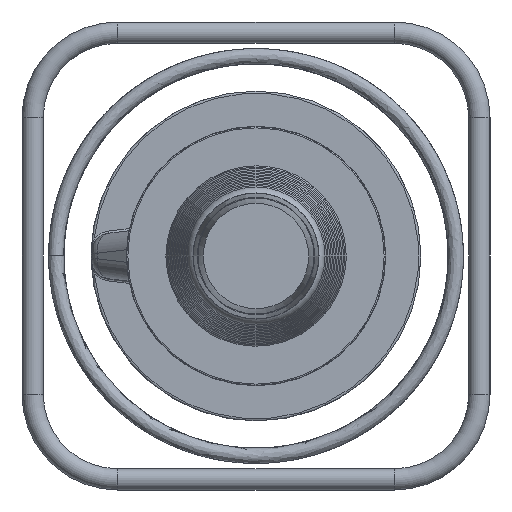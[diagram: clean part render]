
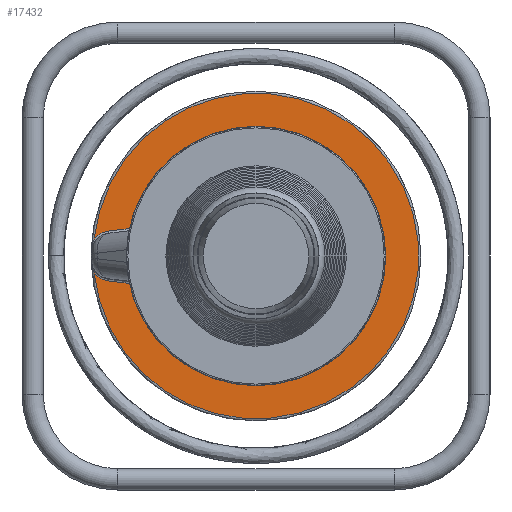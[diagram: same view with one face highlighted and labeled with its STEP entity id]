
A CAD part, left-side view. The second image highlights one B-rep face of the part: STEP entity #17432.
In plain terms, the highlighted planar face has unit normal (-1, 0, 0).
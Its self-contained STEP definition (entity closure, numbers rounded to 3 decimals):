
#1563=PLANE('',#18484);
#2570=LINE('',#39196,#3562);
#2572=LINE('',#39220,#3564);
#3562=VECTOR('',#21537,10.);
#3564=VECTOR('',#21567,10.);
#4504=FACE_OUTER_BOUND('',#5551,.T.);
#5551=EDGE_LOOP('',(#14968,#14969,#14970,#14971,#14972,#14973,#14974,#14975));
#6076=CIRCLE('',#18427,21.);
#6080=CIRCLE('',#18433,8.);
#6083=CIRCLE('',#18437,99.305);
#6086=CIRCLE('',#18441,8.);
#6090=CIRCLE('',#18447,21.);
#6099=CIRCLE('',#18464,153.);
#7895=VERTEX_POINT('',#39167);
#7898=VERTEX_POINT('',#39188);
#7900=VERTEX_POINT('',#39194);
#7902=VERTEX_POINT('',#39200);
#7904=VERTEX_POINT('',#39206);
#7906=VERTEX_POINT('',#39212);
#7908=VERTEX_POINT('',#39218);
#7910=VERTEX_POINT('',#39224);
#10268=EDGE_CURVE('',#7898,#7895,#6076,.T.);
#10271=EDGE_CURVE('',#7900,#7898,#2570,.T.);
#10274=EDGE_CURVE('',#7902,#7900,#6080,.T.);
#10277=EDGE_CURVE('',#7904,#7902,#6083,.T.);
#10280=EDGE_CURVE('',#7906,#7904,#6086,.T.);
#10283=EDGE_CURVE('',#7908,#7906,#2572,.T.);
#10286=EDGE_CURVE('',#7910,#7908,#6090,.T.);
#10311=EDGE_CURVE('',#7895,#7910,#6099,.T.);
#14968=ORIENTED_EDGE('',*,*,#10286,.F.);
#14969=ORIENTED_EDGE('',*,*,#10311,.F.);
#14970=ORIENTED_EDGE('',*,*,#10268,.F.);
#14971=ORIENTED_EDGE('',*,*,#10271,.F.);
#14972=ORIENTED_EDGE('',*,*,#10274,.F.);
#14973=ORIENTED_EDGE('',*,*,#10277,.F.);
#14974=ORIENTED_EDGE('',*,*,#10280,.F.);
#14975=ORIENTED_EDGE('',*,*,#10283,.F.);
#17432=ADVANCED_FACE('',(#4504),#1563,.T.);
#18427=AXIS2_PLACEMENT_3D('',#39190,#21529,#21530);
#18433=AXIS2_PLACEMENT_3D('',#39202,#21543,#21544);
#18437=AXIS2_PLACEMENT_3D('',#39208,#21551,#21552);
#18441=AXIS2_PLACEMENT_3D('',#39214,#21559,#21560);
#18447=AXIS2_PLACEMENT_3D('',#39226,#21573,#21574);
#18464=AXIS2_PLACEMENT_3D('',#39378,#21617,#21618);
#18484=AXIS2_PLACEMENT_3D('',#39744,#21661,#21662);
#21529=DIRECTION('center_axis',(-1.,0.,0.));
#21530=DIRECTION('ref_axis',(0.,0.557,0.831));
#21537=DIRECTION('',(0.,0.992,-0.123));
#21543=DIRECTION('center_axis',(1.,0.,0.));
#21544=DIRECTION('ref_axis',(0.,-0.625,-0.781));
#21551=DIRECTION('center_axis',(-1.,0.,0.));
#21552=DIRECTION('ref_axis',(0.,-1.,0.));
#21559=DIRECTION('center_axis',(1.,0.,0.));
#21560=DIRECTION('ref_axis',(0.,-0.625,0.781));
#21567=DIRECTION('',(0.,-0.992,-0.123));
#21573=DIRECTION('center_axis',(-1.,0.,0.));
#21574=DIRECTION('ref_axis',(0.,0.557,-0.831));
#21617=DIRECTION('center_axis',(1.,0.,0.));
#21618=DIRECTION('ref_axis',(0.,-1.,0.));
#21661=DIRECTION('center_axis',(-1.,0.,0.));
#21662=DIRECTION('ref_axis',(0.,-1.,0.));
#39167=CARTESIAN_POINT('',(-5.009,152.159,15.974));
#39188=CARTESIAN_POINT('',(-5.009,138.549,23.439));
#39190=CARTESIAN_POINT('Origin',(-5.009,135.971,2.598));
#39194=CARTESIAN_POINT('',(-5.009,100.049,28.202));
#39196=CARTESIAN_POINT('',(-5.009,59.752,33.188));
#39200=CARTESIAN_POINT('',(-5.009,93.499,33.447));
#39202=CARTESIAN_POINT('Origin',(-5.009,101.031,36.142));
#39206=CARTESIAN_POINT('',(-5.009,93.499,-33.447));
#39208=CARTESIAN_POINT('Origin',(-5.009,-0.004,
0.));
#39212=CARTESIAN_POINT('',(-5.009,100.049,-28.202));
#39214=CARTESIAN_POINT('Origin',(-5.009,101.031,-36.142));
#39218=CARTESIAN_POINT('',(-5.009,138.549,-23.439));
#39220=CARTESIAN_POINT('',(-5.009,44.379,-35.09));
#39224=CARTESIAN_POINT('',(-5.009,152.159,-15.974));
#39226=CARTESIAN_POINT('Origin',(-5.009,135.971,-2.598));
#39378=CARTESIAN_POINT('Origin',(-5.009,-0.004,
0.));
#39744=CARTESIAN_POINT('Origin',(-5.009,-0.004,
-126.153));
